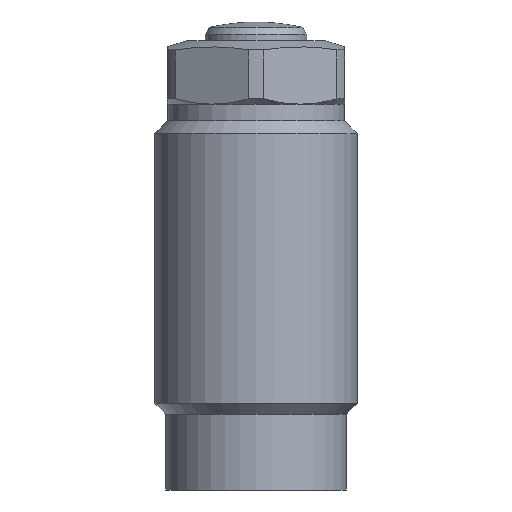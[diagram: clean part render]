
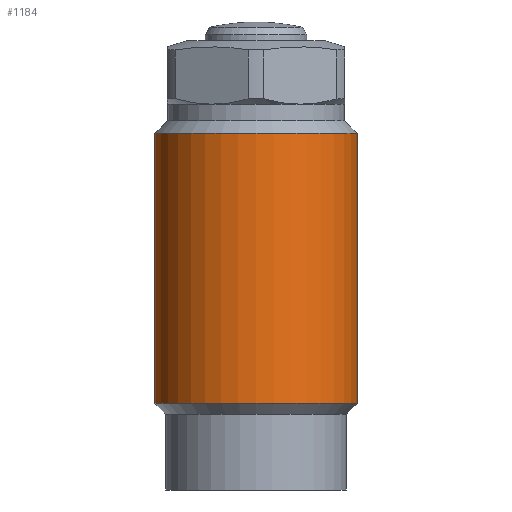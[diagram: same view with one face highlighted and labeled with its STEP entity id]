
A CAD part, front view. The second image highlights one B-rep face of the part: STEP entity #1184.
In plain terms, the highlighted cylindrical face has radius 8 mm (diameter 16 mm), a partial arc.
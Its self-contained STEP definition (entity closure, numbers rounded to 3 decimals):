
#1121=CARTESIAN_POINT('',(-8.,0.0,-28.65));
#1122=VERTEX_POINT('',#1121);
#1130=CARTESIAN_POINT('',(8.,0.0,-28.65));
#1131=VERTEX_POINT('',#1130);
#1138=CARTESIAN_POINT('',(0.0,0.0,-28.65));
#1139=DIRECTION('',(0.0,0.0,1.0));
#1140=DIRECTION('',(1.0,0.0,0.0));
#1141=AXIS2_PLACEMENT_3D('',#1138,#1139,#1140);
#1142=CIRCLE('',#1141,8.);
#1143=EDGE_CURVE('no 1670',#1122,#1131,#1142,.T.);
#1153=CARTESIAN_POINT('',(-8.,0.0,-7.3));
#1154=VERTEX_POINT('',#1153);
#1155=CARTESIAN_POINT('',(-8.,0.0,-28.65));
#1156=DIRECTION('',(0.,-0.0,1.0));
#1157=VECTOR('',#1156,1.0);
#1158=LINE('',#1155,#1157);
#1159=EDGE_CURVE('no 1680',#1122,#1154,#1158,.T.);
#1160=ORIENTED_EDGE('',*,*,#1159,.F.);
#1161=ORIENTED_EDGE('',*,*,#1143,.T.);
#1162=CARTESIAN_POINT('',(8.,0.0,-7.3));
#1163=VERTEX_POINT('',#1162);
#1164=CARTESIAN_POINT('',(8.,0.0,-28.65));
#1165=DIRECTION('',(0.,0.0,1.0));
#1166=VECTOR('',#1165,1.0);
#1167=LINE('',#1164,#1166);
#1168=EDGE_CURVE('no 1688',#1131,#1163,#1167,.T.);
#1169=ORIENTED_EDGE('',*,*,#1168,.T.);
#1170=CARTESIAN_POINT('',(0.0,0.0,-7.3));
#1171=DIRECTION('',(0.0,0.0,1.0));
#1172=DIRECTION('',(1.0,0.0,0.0));
#1173=AXIS2_PLACEMENT_3D('',#1170,#1171,#1172);
#1174=CIRCLE('',#1173,8.);
#1175=EDGE_CURVE('no 1692',#1154,#1163,#1174,.T.);
#1176=ORIENTED_EDGE('',*,*,#1175,.F.);
#1177=EDGE_LOOP('',(#1160,#1161,#1169,#1176));
#1178=FACE_OUTER_BOUND('',#1177,.T.);
#1179=CARTESIAN_POINT('',(0.0,0.0,8.838));
#1180=DIRECTION('',(0.0,0.0,1.0));
#1181=DIRECTION('',(0.0,1.0,0.0));
#1182=AXIS2_PLACEMENT_3D('',#1179,#1180,#1181);
#1183=CYLINDRICAL_SURFACE('',#1182,8.);
#1184=ADVANCED_FACE('no 1673',(#1178),#1183,.T.);
